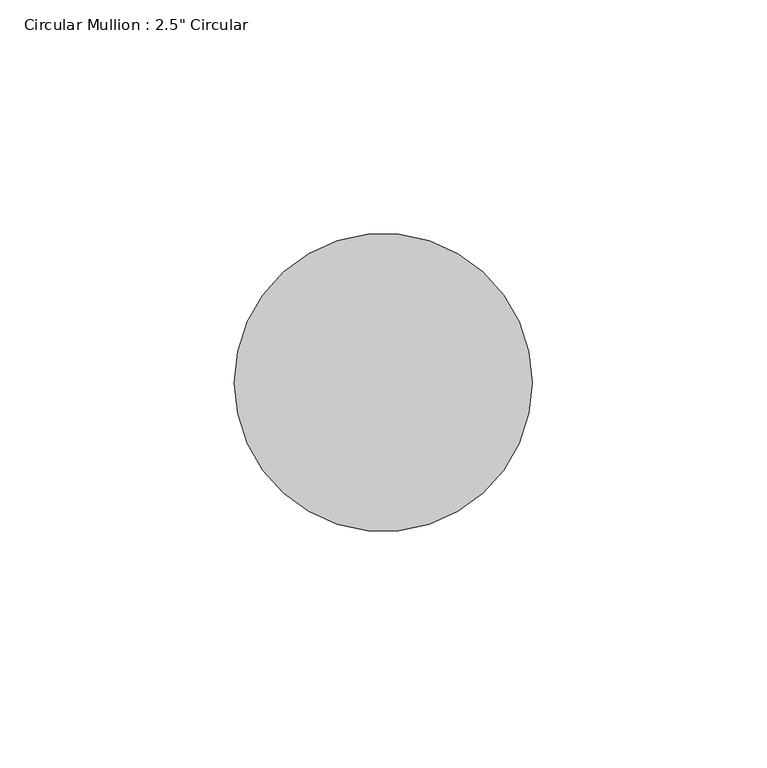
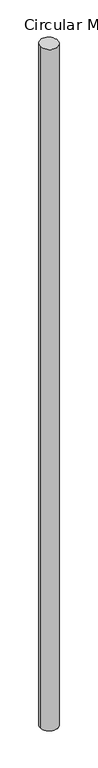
"""IFC4 building model written with IfcOpenShell, lengths in millimetres: member geometry."""

from ifc_helpers import new_model, si_unit, frame, origin, origin_with_axes, place, context, project, spatial, circle_curve, ellipse_curve, source, transform, mapped, element, save
from ifc_brep_helpers import plane_surface, cylinder_surface, advanced_brep


def member_4ed57528(model_context):
    return source(origin(), model_context, "Body", "AdvancedBrep", [
        advanced_brep(
        [(31.75, 0.0, -2572.2614328), (-31.75, 0.0, -2572.2614328), (-31.75, 0.0, 0.3187895), (31.75, 0.0, -0.3187895)],
        [
            (0, 1, circle_curve(frame((0.0, 0.0, -2572.2614328), z_axis=(0.0, 0.0, -1.0), x_axis=(1.0, 0.0, 0.0)), 31.75)),
            (1, 0, circle_curve(frame((0.0, 0.0, -2572.2614328), z_axis=(0.0, 0.0, -1.0), x_axis=(1.0, 0.0, 0.0)), 31.75)),
            (2, 3, ellipse_curve(frame((0.0, 0.0, 0.0), z_axis=(-0.010025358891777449, 0.054183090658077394, -0.9984806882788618), x_axis=(-0.18166287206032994, 0.9818158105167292, 0.055102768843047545)), 31.7983115, 31.75)),
            (3, 0),
            (1, 2),
            (3, 2, ellipse_curve(frame((0.0, 0.0, 0.0), z_axis=(-0.010025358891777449, 0.054183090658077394, -0.9984806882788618), x_axis=(-0.18166287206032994, 0.9818158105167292, 0.055102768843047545)), 31.7983115, 31.75)),
        ],
        [
            plane_surface(frame((0.0, -31.75, -2572.2614328), z_axis=(0.0, 0.0, -1.0), x_axis=(-1.0, 0.0, 0.0))),
            cylinder_surface(origin_with_axes(), 31.75),
            plane_surface(frame((299.7128162, 55.455097, 0.0), z_axis=(0.010025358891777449, -0.054183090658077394, 0.9984806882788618), x_axis=(0.18166287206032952, -0.9818158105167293, -0.05510276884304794))),
        ],
        [
            (0, [[1, 2]]),
            (1, [[3, 4, -2, 5]]),
            (1, [[6, -5, -1, -4]]),
            (2, [[-3, -6]]),
        ],
    ),
    ])


if __name__ == "__main__":
    model = new_model("IFC4")
    model_context = context("Model", 3, world=origin())
    ifc_project = project(units=[si_unit("LENGTHUNIT", "METRE", prefix="MILLI")], contexts=[model_context])
    site = spatial("IfcSite", under=ifc_project)
    building = spatial("IfcBuilding", under=site)
    placement = place(None, origin())
    member_shape = member_4ed57528(model_context)
    element("IfcMember", 1, ObjectType="Circular Mullion : 2.5\" Circular", at=placement, inside=building, context=model_context, shape_type="MappedRepresentation", body=[
        mapped(member_shape, transform((0.0, 0.0, 0.0), x_axis=(1.0, 0.0, 0.0), y_axis=(0.0, 1.0, 0.0), z_axis=(0.0, 0.0, 1.0))),
    ])
    save(model, "model.ifc")
